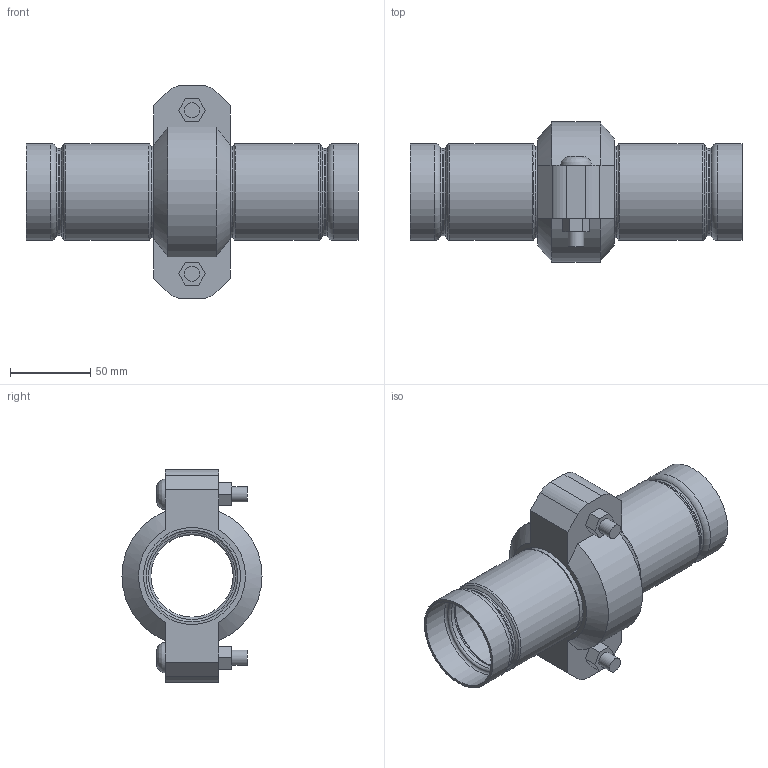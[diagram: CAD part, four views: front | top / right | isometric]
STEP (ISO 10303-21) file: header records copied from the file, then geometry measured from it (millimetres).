
FILE_DESCRIPTION(/* description */ ('VIC STRENGTHIN 100 EXPANSION JOINT 1 COUPLING EXPANDED STYLE E155 (ST1)','CAx-IF Rec.Pracs.---Representation and Presentation of Product Manufacturing Information (PMI)---4.0---2014-10-13'),/* implementation_level */ '2;1');
FILE_NAME(/* name */ 'C:\Users\Vjadhav\AppData\Roaming\Autodesk\ApplicationPlugins\Victaulic.Temp\A475\Victaulic_SS-StrengThin 100_Expansion Joint_Expanded_1 Coupling_Style E155 (ST1)_2 (50).stp',/* time_stamp */ '2021-07-23T19:21:45+06:00',/* author */ ('kkamble'),/* organization */ ('Victaulic'),/* preprocessor_version */ 'ST-DEVELOPER v17.2',/* originating_system */ 'Autodesk Inventor 2019',/* authorisation */ '');
FILE_SCHEMA (('AP242_MANAGED_MODEL_BASED_3D_ENGINEERING_MIM_LF { 1 0 10303 442 1 1 4 }'));
Length unit declared in the file: inch
Products named in the file (3): E155-02.0; E494G-02.0; 075-02.0
Assembly tree (3 placements, depth 2):
  E155-02.0
    E494G-02.0  x2
    075-02.0
Bounding box: 206.5 x 87.12 x 132.59 mm (x, y, z)
Volume: 263095.4 mm3; surface area: 118415.6 mm2
Topology: 3 solids, 5 shells, 125 faces, 355 edges, 256 vertices
Faces by surface type: plane 48, cylinder 35, torus 32, cone 8, bspline 2
Full cylindrical faces by diameter (mm): 9.525 x4, 11.43 x2, 51.13 x2, 53.95 x2, 53.975 x1, 54.331 x2, 57.125 x6, 57.15 x2, 60.325 x8
Entity records: 3250 total; most frequent: CARTESIAN_POINT 582, DIRECTION 569, ORIENTED_EDGE 488, EDGE_CURVE 244, AXIS2_PLACEMENT_3D 238, VERTEX_POINT 173, CIRCLE 143, EDGE_LOOP 111
